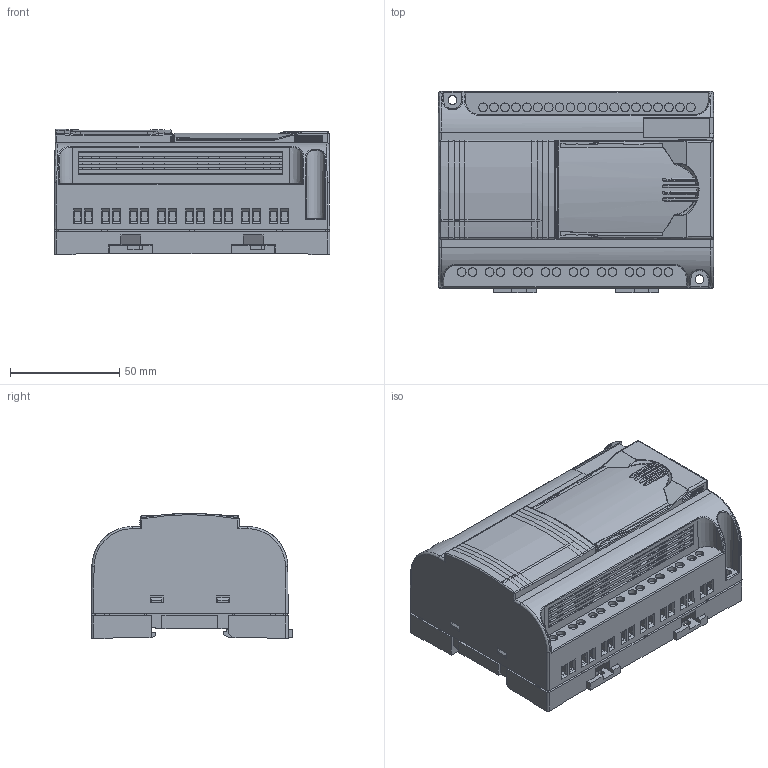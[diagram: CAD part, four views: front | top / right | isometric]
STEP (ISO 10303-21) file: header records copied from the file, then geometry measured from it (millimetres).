
FILE_DESCRIPTION (( 'STEP AP214' ), '1' );
FILE_NAME ('AF-20MR-xx-CAP.STEP', '2024-04-03T13:37:10', ( '' ), ( '' ), 'SwSTEP 2.0', 'SolidWorks 2022', '' );
FILE_SCHEMA (( 'AUTOMOTIVE_DESIGN' ));
Length unit declared in the file: millimetre
Products named in the file (1): AF-20MR-xx-CAP
Bounding box: 126 x 92 x 57.3 mm (x, y, z)
Volume: 508337.7 mm3; surface area: 97189.8 mm2
Topology: 1 solids, 22 shells, 1715 faces, 4592 edges, 2977 vertices
Faces by surface type: plane 1354, cylinder 235, bspline 73, cone 26, torus 17, sphere 10
Entity records: 55086 total; most frequent: CARTESIAN_POINT 12755, ORIENTED_EDGE 9168, DIRECTION 8071, EDGE_CURVE 4584, VECTOR 3813, LINE 3813, VERTEX_POINT 2977, AXIS2_PLACEMENT_3D 2129
